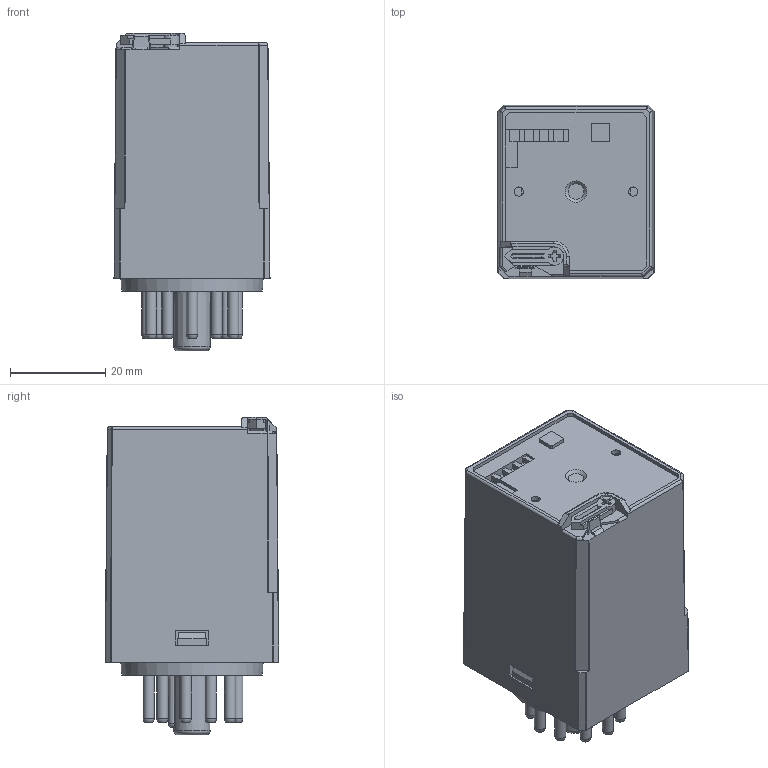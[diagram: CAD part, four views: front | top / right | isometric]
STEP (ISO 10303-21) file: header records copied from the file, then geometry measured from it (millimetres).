
FILE_DESCRIPTION(/* description */ ('Unknown'),/* implementation_level */ '2;1');
FILE_NAME(/* name */ '6013',/* time_stamp */ '2019-09-20T10:43:35+02:00',/* author */ ('Unknown'),/* organization */ ('Unknown'),/* preprocessor_version */ 'ST-DEVELOPER v16.7',/* originating_system */ 'DEX',/* authorisation */ $);
FILE_SCHEMA (('AUTOMOTIVE_DESIGN {1 0 10303 214 3 1 1}'));
Length unit declared in the file: millimetre
Products named in the file (1): 6013
Bounding box: 32.8 x 36.5 x 66.75 mm (x, y, z)
Surface area: 14565.2 mm2 (no closed solid volume)
Topology: 0 solids, 18 shells, 567 faces, 1497 edges, 987 vertices
Faces by surface type: plane 312, torus 91, cylinder 80, cone 43, bspline 37, sphere 4
Full cylindrical faces by diameter (mm): 1.65 x11, 1.95 x2, 2.35 x22, 2.8 x1
Entity records: 20529 total; most frequent: CARTESIAN_POINT 4390, DIRECTION 2667, ORIENTED_EDGE 2409, EDGE_CURVE 1301, VERTEX_POINT 964, AXIS2_PLACEMENT_3D 937, EDGE_LOOP 813, FACE_BOUND 813
